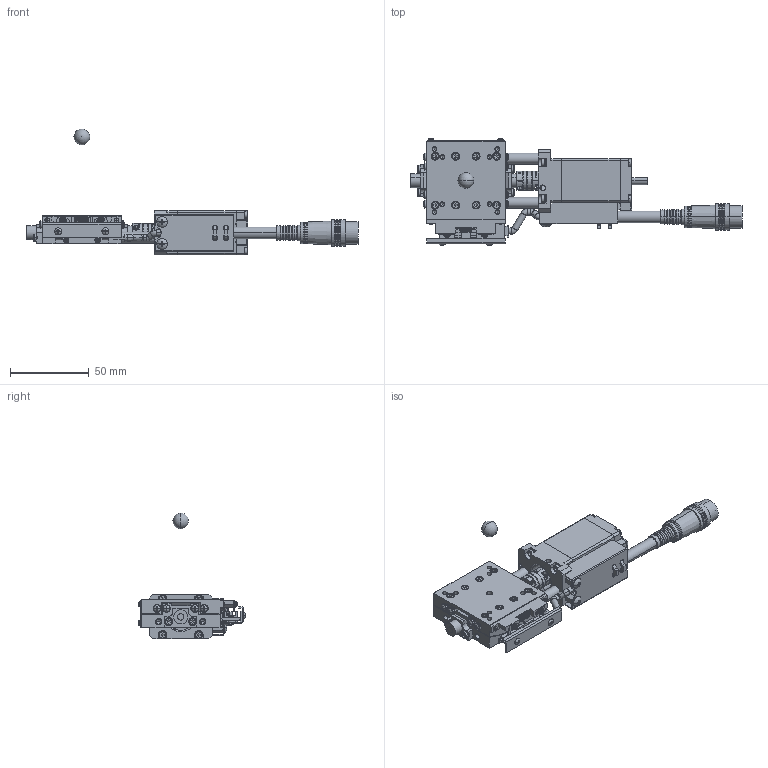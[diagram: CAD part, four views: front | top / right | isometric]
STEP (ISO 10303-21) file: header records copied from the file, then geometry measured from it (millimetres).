
FILE_DESCRIPTION (( 'STEP AP203' ), '1' );
FILE_NAME ('SA05B-RT02-R.STEP', '2019-02-25T04:12:34', ( '' ), ( '' ), 'SwSTEP 2.0', 'SolidWorks 2018', '' );
FILE_SCHEMA (( 'CONFIG_CONTROL_DESIGN' ));
Length unit declared in the file: millimetre
Products named in the file (8): base; SA05B-RT02-R; base-Part-1; base-Part-2; base-Part-4; base-Part-3; table; rotation center
Assembly tree (6 placements, depth 3):
  SA05B-RT02-R
    base
      base-Part-2
      base-Part-3
      base-Part-4
    table
    rotation center
  base-Part-1
Bounding box: 211 x 67.96 x 80 mm (x, y, z)
Volume: 108510.1 mm3; surface area: 48396.9 mm2
Topology: 5 solids, 5 shells, 2704 faces, 6809 edges, 4224 vertices
Faces by surface type: plane 1665, cylinder 633, cone 222, torus 128, sphere 50, bspline 6
Entity records: 83369 total; most frequent: CARTESIAN_POINT 16585, DIRECTION 14282, ORIENTED_EDGE 13416, EDGE_CURVE 6708, AXIS2_PLACEMENT_3D 5030, LINE 4222, VECTOR 4222, VERTEX_POINT 4217
